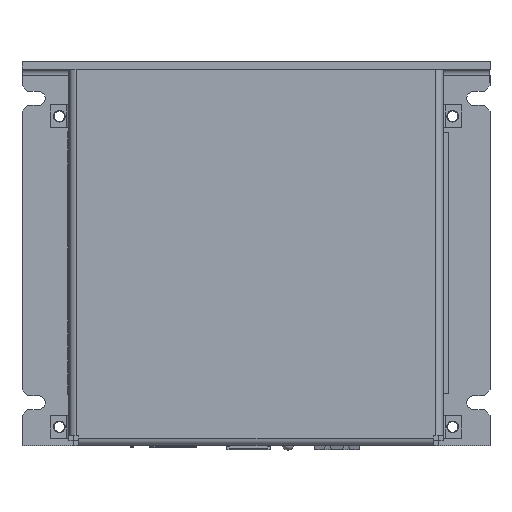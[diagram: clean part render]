
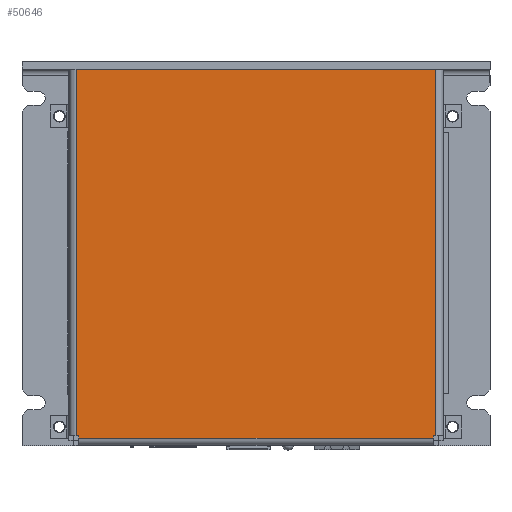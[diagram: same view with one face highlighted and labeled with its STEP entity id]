
A CAD part, top view. The second image highlights one B-rep face of the part: STEP entity #50646.
In plain terms, the highlighted planar face has unit normal (0, 0, 1).
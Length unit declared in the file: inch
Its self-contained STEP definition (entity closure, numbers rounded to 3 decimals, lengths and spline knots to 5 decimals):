
#42429 = VERTEX_POINT ( 'NONE', #65212 ) ;
#42450 = VERTEX_POINT ( 'NONE', #65225 ) ;
#42456 = VERTEX_POINT ( 'NONE', #65228 ) ;
#42459 = VERTEX_POINT ( 'NONE', #65230 ) ;
#42461 = VERTEX_POINT ( 'NONE', #65231 ) ;
#42463 = VERTEX_POINT ( 'NONE', #65232 ) ;
#42469 = VERTEX_POINT ( 'NONE', #65235 ) ;
#42471 = VERTEX_POINT ( 'NONE', #65237 ) ;
#49956 = EDGE_CURVE ( 'NONE', #42429, #42450, #89789, .T. ) ;
#49963 = EDGE_CURVE ( 'NONE', #42459, #42461, #89824, .T. ) ;
#49969 = EDGE_CURVE ( 'NONE', #42456, #42459, #89864, .T. ) ;
#49976 = EDGE_CURVE ( 'NONE', #42469, #42471, #89854, .T. ) ;
#49982 = EDGE_CURVE ( 'NONE', #42463, #42469, #89904, .T. ) ;
#49994 = EDGE_CURVE ( 'NONE', #42461, #42429, #89913, .T. ) ;
#49995 = EDGE_CURVE ( 'NONE', #42463, #42450, #89946, .T. ) ;
#49996 = EDGE_CURVE ( 'NONE', #42471, #42456, #89924, .T. ) ;
#50646 = ADVANCED_FACE ( 'NONE', ( #99777 ), #99768, .T. ) ;
#53157 = EDGE_LOOP ( 'NONE', ( #57377, #57378, #57379, #57380, #57381, #57382, #57383, #57384 ) ) ;
#57377 = ORIENTED_EDGE ( 'NONE', *, *, #49963, .T. ) ;
#57378 = ORIENTED_EDGE ( 'NONE', *, *, #49994, .T. ) ;
#57379 = ORIENTED_EDGE ( 'NONE', *, *, #49956, .T. ) ;
#57380 = ORIENTED_EDGE ( 'NONE', *, *, #49995, .F. ) ;
#57381 = ORIENTED_EDGE ( 'NONE', *, *, #49982, .T. ) ;
#57382 = ORIENTED_EDGE ( 'NONE', *, *, #49976, .T. ) ;
#57383 = ORIENTED_EDGE ( 'NONE', *, *, #49996, .T. ) ;
#57384 = ORIENTED_EDGE ( 'NONE', *, *, #49969, .T. ) ;
#65212 = CARTESIAN_POINT ( 'NONE',  ( 1.921, 2.01, 1.12 ) ) ;
#65225 = CARTESIAN_POINT ( 'NONE',  ( -1.921, 2.01, 1.12 ) ) ;
#65228 = CARTESIAN_POINT ( 'NONE',  ( 1.896, -1.931, 1.12 ) ) ;
#65230 = CARTESIAN_POINT ( 'NONE',  ( 1.896, -1.906, 1.12 ) ) ;
#65231 = CARTESIAN_POINT ( 'NONE',  ( 1.921, -1.906, 1.12 ) ) ;
#65232 = CARTESIAN_POINT ( 'NONE',  ( -1.921, -1.906, 1.12 ) ) ;
#65235 = CARTESIAN_POINT ( 'NONE',  ( -1.896, -1.906, 1.12 ) ) ;
#65237 = CARTESIAN_POINT ( 'NONE',  ( -1.896, -1.931, 1.12 ) ) ;
#85508 = VECTOR ( 'NONE', #89826, 39.37008 ) ;
#85514 = VECTOR ( 'NONE', #89850, 39.37008 ) ;
#85524 = VECTOR ( 'NONE', #89868, 39.37008 ) ;
#85528 = VECTOR ( 'NONE', #89892, 39.37008 ) ;
#85537 = VECTOR ( 'NONE', #89909, 39.37008 ) ;
#85544 = VECTOR ( 'NONE', #89944, 39.37008 ) ;
#85548 = VECTOR ( 'NONE', #89954, 39.37008 ) ;
#85549 = VECTOR ( 'NONE', #89950, 39.37008 ) ;
#89789 = LINE ( 'NONE', #89822, #85508 ) ;
#89822 = CARTESIAN_POINT ( 'NONE',  ( -2.2, 2.01, 1.12 ) ) ;
#89824 = LINE ( 'NONE', #89846, #85514 ) ;
#89826 = DIRECTION ( 'NONE',  ( -1., 0., 0. ) ) ;
#89846 = CARTESIAN_POINT ( 'NONE',  ( -2.2, -1.906, 1.12 ) ) ;
#89850 = DIRECTION ( 'NONE',  ( 1., 0., 0. ) ) ;
#89854 = LINE ( 'NONE', #89889, #85528 ) ;
#89864 = LINE ( 'NONE', #89867, #85524 ) ;
#89867 = CARTESIAN_POINT ( 'NONE',  ( 1.896, -2.01, 1.12 ) ) ;
#89868 = DIRECTION ( 'NONE',  ( 0., 1., 0. ) ) ;
#89889 = CARTESIAN_POINT ( 'NONE',  ( -1.896, -2.01, 1.12 ) ) ;
#89892 = DIRECTION ( 'NONE',  ( 0., -1., 0. ) ) ;
#89904 = LINE ( 'NONE', #89907, #85537 ) ;
#89907 = CARTESIAN_POINT ( 'NONE',  ( -2.2, -1.906, 1.12 ) ) ;
#89909 = DIRECTION ( 'NONE',  ( 1., 0., 0. ) ) ;
#89913 = LINE ( 'NONE', #89940, #85544 ) ;
#89924 = LINE ( 'NONE', #89952, #85548 ) ;
#89940 = CARTESIAN_POINT ( 'NONE',  ( 1.921, 2.01, 1.12 ) ) ;
#89944 = DIRECTION ( 'NONE',  ( 0., 1., 0. ) ) ;
#89946 = LINE ( 'NONE', #89948, #85549 ) ;
#89948 = CARTESIAN_POINT ( 'NONE',  ( -1.921, 2.01, 1.12 ) ) ;
#89950 = DIRECTION ( 'NONE',  ( 0., 1., 0. ) ) ;
#89952 = CARTESIAN_POINT ( 'NONE',  ( 1.896, -1.931, 1.12 ) ) ;
#89954 = DIRECTION ( 'NONE',  ( 1., 0., 0. ) ) ;
#94338 = AXIS2_PLACEMENT_3D ( 'NONE', #99770, #99781, #99783 ) ;
#99768 = PLANE ( 'NONE',  #94338 ) ;
#99770 = CARTESIAN_POINT ( 'NONE',  ( -2.2, -2.01, 1.12 ) ) ;
#99777 = FACE_OUTER_BOUND ( 'NONE', #53157, .T. ) ;
#99781 = DIRECTION ( 'NONE',  ( 0., 0., 1. ) ) ;
#99783 = DIRECTION ( 'NONE',  ( 1., 0., 0. ) ) ;
